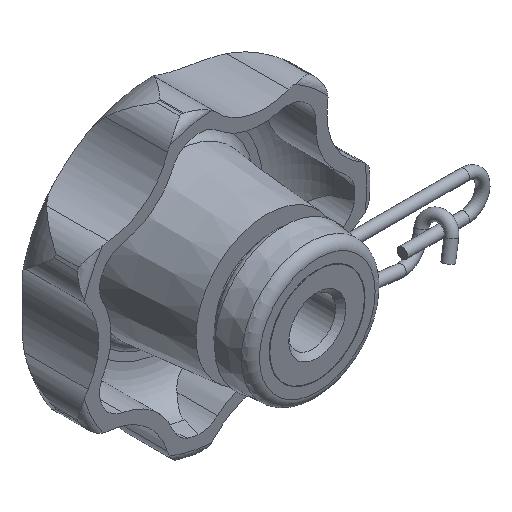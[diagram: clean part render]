
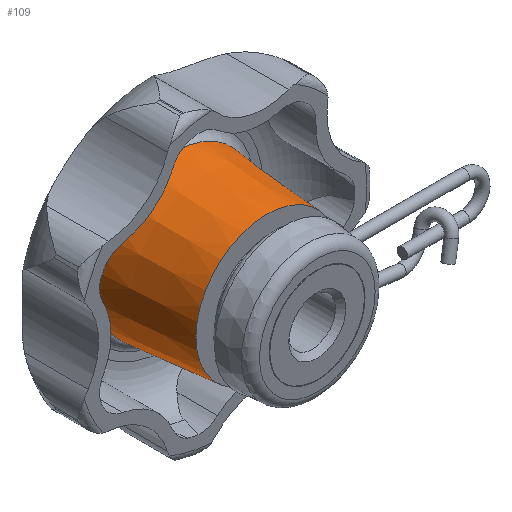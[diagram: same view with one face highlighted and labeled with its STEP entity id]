
A CAD part, isometric view. The second image highlights one B-rep face of the part: STEP entity #109.
In plain terms, the highlighted conical face has half-angle 5 degrees and reference radius 8.312 mm.
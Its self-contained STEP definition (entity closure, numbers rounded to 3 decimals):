
#109 = ADVANCED_FACE( '', ( #257, #258 ), #259, .T. );
#257 = FACE_BOUND( '', #497, .T. );
#258 = FACE_OUTER_BOUND( '', #498, .T. );
#259 = CONICAL_SURFACE( '', #499, 8.312, 0.087 );
#497 = EDGE_LOOP( '', ( #932 ) );
#498 = EDGE_LOOP( '', ( #933 ) );
#499 = AXIS2_PLACEMENT_3D( '', #934, #935, #936 );
#932 = ORIENTED_EDGE( '', *, *, #1592, .F. );
#933 = ORIENTED_EDGE( '', *, *, #1593, .T. );
#934 = CARTESIAN_POINT( '', ( 0., 14.976, 0. ) );
#935 = DIRECTION( '', ( 0., 1., 0. ) );
#936 = DIRECTION( '', ( 0., 0., 1. ) );
#1592 = EDGE_CURVE( '', #1947, #1947, #1948, .T. );
#1593 = EDGE_CURVE( '', #1949, #1949, #1950, .T. );
#1947 = VERTEX_POINT( '', #3106 );
#1948 = CIRCLE( '', #3107, 7.465 );
#1949 = VERTEX_POINT( '', #3108 );
#1950 = CIRCLE( '', #3109, 8.312 );
#3106 = CARTESIAN_POINT( '', ( 0., 5.3, -7.465 ) );
#3107 = AXIS2_PLACEMENT_3D( '', #3807, #3808, #3809 );
#3108 = CARTESIAN_POINT( '', ( 0., 14.976, -8.312 ) );
#3109 = AXIS2_PLACEMENT_3D( '', #3810, #3811, #3812 );
#3807 = CARTESIAN_POINT( '', ( 0., 5.3, 0. ) );
#3808 = DIRECTION( '', ( 0., -1., 0. ) );
#3809 = DIRECTION( '', ( 0., 0., -1. ) );
#3810 = CARTESIAN_POINT( '', ( 0., 14.976, 0. ) );
#3811 = DIRECTION( '', ( 0., -1., 0. ) );
#3812 = DIRECTION( '', ( 0., 0., -1. ) );
